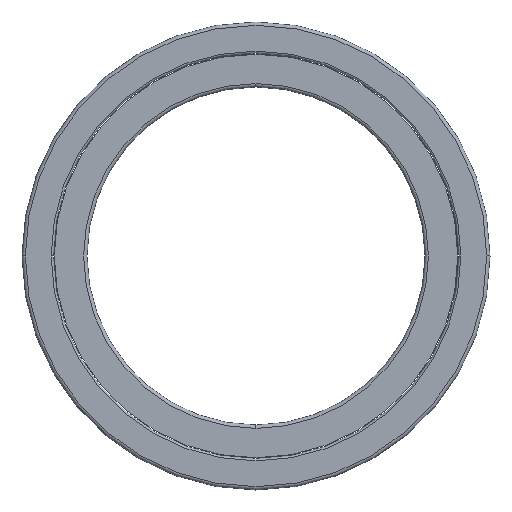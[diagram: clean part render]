
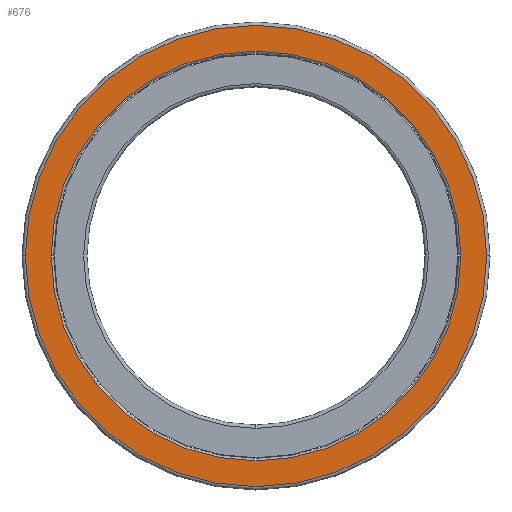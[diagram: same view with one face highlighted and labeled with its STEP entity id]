
A CAD part, front view. The second image highlights one B-rep face of the part: STEP entity #676.
In plain terms, the highlighted planar face has unit normal (0, -1, 0).
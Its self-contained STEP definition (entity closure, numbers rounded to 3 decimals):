
#25=CARTESIAN_POINT('',(0.,-31.75,0.));
#26=DIRECTION('',(0.,-1.,0.));
#27=DIRECTION('',(-1.,0.,0.));
#28=AXIS2_PLACEMENT_3D('',#25,#26,#27);
#30=CARTESIAN_POINT('',(0.,-31.75,0.));
#31=DIRECTION('',(0.,-1.,0.));
#32=DIRECTION('',(1.,0.,0.));
#33=AXIS2_PLACEMENT_3D('',#30,#31,#32);
#35=CARTESIAN_POINT('',(0.,-31.75,0.));
#36=DIRECTION('',(0.,-1.,0.));
#37=DIRECTION('',(1.,0.,0.));
#38=AXIS2_PLACEMENT_3D('',#35,#36,#37);
#40=CARTESIAN_POINT('',(0.,-31.75,0.));
#41=DIRECTION('',(0.,-1.,0.));
#42=DIRECTION('',(-1.,0.,0.));
#43=AXIS2_PLACEMENT_3D('',#40,#41,#42);
#563=CARTESIAN_POINT('',(-225.3,-31.75,0.));
#564=CARTESIAN_POINT('',(225.3,-31.75,0.));
#565=VERTEX_POINT('',#563);
#566=VERTEX_POINT('',#564);
#583=CARTESIAN_POINT('',(200.1,-31.75,0.));
#584=CARTESIAN_POINT('',(-200.1,-31.75,0.));
#585=VERTEX_POINT('',#583);
#586=VERTEX_POINT('',#584);
#660=CARTESIAN_POINT('',(0.,-31.75,0.));
#661=DIRECTION('',(0.,1.,0.));
#662=DIRECTION('',(1.,0.,0.));
#663=AXIS2_PLACEMENT_3D('',#660,#661,#662);
#664=PLANE('',#663);
#665=ORIENTED_EDGE('',*,*,#642,.F.);
#667=ORIENTED_EDGE('',*,*,#666,.F.);
#668=EDGE_LOOP('',(#665,#667));
#669=FACE_OUTER_BOUND('',#668,.F.);
#671=ORIENTED_EDGE('',*,*,#670,.T.);
#673=ORIENTED_EDGE('',*,*,#672,.T.);
#674=EDGE_LOOP('',(#671,#673));
#675=FACE_BOUND('',#674,.F.);
#29=CIRCLE('',#28,225.3);
#34=CIRCLE('',#33,225.3);
#39=CIRCLE('',#38,200.1);
#44=CIRCLE('',#43,200.1);
#642=EDGE_CURVE('',#565,#566,#29,.T.);
#666=EDGE_CURVE('',#566,#565,#34,.T.);
#670=EDGE_CURVE('',#585,#586,#39,.T.);
#672=EDGE_CURVE('',#586,#585,#44,.T.);
#676=ADVANCED_FACE('',(#669,#675),#664,.F.);
